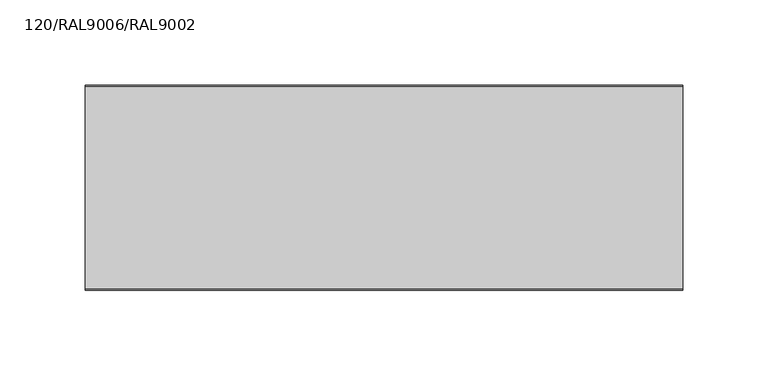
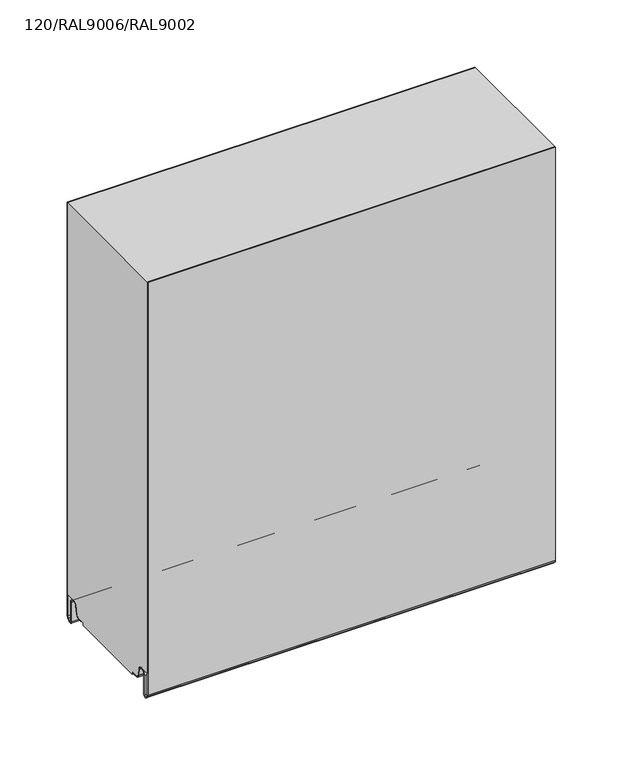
"""IFC4 building model written with IfcOpenShell, lengths in millimetres: plate geometry, TR_C_H_FTV_Panel_cut_GROOVE : 120/RAL9006/RAL9002."""

from ifc_helpers import new_model, si_unit, point, frame, frame_2d, origin, place, context, project, spatial, polyline, circle_curve, trimmed, segment, composite_curve, outline, extrude, source, transform, mapped, element, save


def plate_120_ral9006_ral9002_0dee8bbd(model_context):
    return source(origin(), model_context, "Body", "SweptSolid", [
        extrude(outline(composite_curve([segment(polyline([(-0.8, 14.4000012), (-9.45, 14.4000012)]), True, "CONTINUOUS"), segment(trimmed(circle_curve(frame_2d((-9.45, 10.1500012)), 4.25), [point((-9.45, 14.4000012))], [point((-13.635433, 10.8880059))], True, "CARTESIAN"), True, "CONTINUOUS"), segment(polyline([(-13.635433, 10.8880059), (-14.7022582, 4.837739)]), True, "CONTINUOUS"), segment(trimmed(circle_curve(frame_2d((-17.6074411, 5.3500012)), 2.95), [point((-14.7022582, 4.837739))], [point((-17.6074411, 2.4000012))], False, "CARTESIAN"), True, "CONTINUOUS"), segment(polyline([(-17.6074411, 2.4000012), (-23.7, 2.4000012), (-23.7, 1.2e-06), (-96.3, 1.2e-06), (-96.3, 2.4000012), (-102.3925589, 2.4000012)]), True, "CONTINUOUS"), segment(trimmed(circle_curve(frame_2d((-102.3925589, 5.3500012)), 2.95), [point((-102.3925589, 2.4000012))], [point((-105.2977418, 4.837739))], False, "CARTESIAN"), True, "CONTINUOUS"), segment(polyline([(-105.2977418, 4.837739), (-106.364567, 10.8880059)]), True, "CONTINUOUS"), segment(trimmed(circle_curve(frame_2d((-110.55, 10.1500012)), 4.25), [point((-106.364567, 10.8880059))], [point((-110.55, 14.4000012))], True, "CARTESIAN"), True, "CONTINUOUS"), segment(polyline([(-110.55, 14.4000012), (-119.2, 14.4000012), (-119.2, 370.0), (-0.8, 370.0), (-0.8, 14.4000012)]), True, "CONTINUOUS")], self_intersect=False)), frame((-110.0, 0.0, 0.0), z_axis=(1.0, 0.0, 0.0), x_axis=(0.0, 1.0, 0.0)), (0.0, 0.0, 1.0), 350.0),
        extrude(outline(composite_curve([segment(polyline([(-21.0, 2.4000012), (-17.6074411, 2.4000012)]), True, "CONTINUOUS"), segment(trimmed(circle_curve(frame_2d((-17.6074411, 5.3500012)), 2.95), [point((-17.6074411, 2.4000012))], [point((-14.7022582, 4.837739))], True, "CARTESIAN"), True, "CONTINUOUS"), segment(polyline([(-14.7022582, 4.837739), (-13.635433, 10.8880059)]), True, "CONTINUOUS"), segment(trimmed(circle_curve(frame_2d((-9.45, 10.1500012)), 4.25), [point((-13.635433, 10.8880059))], [point((-5.2, 10.1500012))], False, "CARTESIAN"), True, "CONTINUOUS"), segment(polyline([(-5.2, 10.1500012), (-5.2, -7.4499988)]), True, "CONTINUOUS"), segment(trimmed(circle_curve(frame_2d((-4.05, -7.4499988)), 1.15), [point((-5.2, -7.4499988))], [point((-3.2368272, -8.2631716))], True, "CARTESIAN"), True, "CONTINUOUS"), segment(polyline([(-3.2368272, -8.2631716), (-1.3711418, -6.3974862)]), True, "CONTINUOUS"), segment(trimmed(circle_curve(frame_2d((-2.75, -5.018628)), 1.95), [point((-1.3711418, -6.3974862))], [point((-0.8, -5.018628))], True, "CARTESIAN"), True, "CONTINUOUS"), segment(polyline([(-0.8, -5.018628), (-0.8, 370.0), (0.0, 370.0), (0.0, -5.018628)]), True, "CONTINUOUS"), segment(trimmed(circle_curve(frame_2d((-2.75, -5.018628)), 2.75), [point((0.0, -5.018628))], [point((-0.8054564, -6.9631716))], False, "CARTESIAN"), True, "CONTINUOUS"), segment(polyline([(-0.8054564, -6.9631716), (-2.6711418, -8.8288571)]), True, "CONTINUOUS"), segment(trimmed(circle_curve(frame_2d((-4.05, -7.4499988)), 1.95), [point((-2.6711418, -8.8288571))], [point((-6.0, -7.4499988))], False, "CARTESIAN"), True, "CONTINUOUS"), segment(polyline([(-6.0, -7.4499988), (-6.0, 10.1500012)]), True, "CONTINUOUS"), segment(trimmed(circle_curve(frame_2d((-9.45, 10.1500012)), 3.45), [point((-6.0, 10.1500012))], [point((-12.8475867, 10.7490874))], True, "CARTESIAN"), True, "CONTINUOUS"), segment(polyline([(-12.8475867, 10.7490874), (-13.914412, 4.6988205)]), True, "CONTINUOUS"), segment(trimmed(circle_curve(frame_2d((-17.6074411, 5.3500012)), 3.75), [point((-13.914412, 4.6988205))], [point((-17.6074411, 1.6000012))], False, "CARTESIAN"), True, "CONTINUOUS"), segment(polyline([(-17.6074411, 1.6000012), (-21.0, 1.6000012), (-21.0, 2.4000012)]), True, "CONTINUOUS")], self_intersect=False)), frame((-110.0, 0.0, 0.0), z_axis=(1.0, 0.0, 0.0), x_axis=(0.0, 1.0, 0.0)), (0.0, 0.0, 1.0), 350.0),
        extrude(outline(composite_curve([segment(trimmed(circle_curve(frame_2d((-117.25, -5.018628)), 1.95), [point((-119.2, -5.018628))], [point((-118.6288582, -6.3974862))], True, "CARTESIAN"), True, "CONTINUOUS"), segment(polyline([(-118.6288582, -6.3974862), (-116.7631728, -8.2631716)]), True, "CONTINUOUS"), segment(trimmed(circle_curve(frame_2d((-115.95, -7.4499988)), 1.15), [point((-116.7631728, -8.2631716))], [point((-114.8, -7.4499988))], True, "CARTESIAN"), True, "CONTINUOUS"), segment(polyline([(-114.8, -7.4499988), (-114.8, 10.1500012)]), True, "CONTINUOUS"), segment(trimmed(circle_curve(frame_2d((-110.55, 10.1500012)), 4.25), [point((-114.8, 10.1500012))], [point((-106.364567, 10.8880059))], False, "CARTESIAN"), True, "CONTINUOUS"), segment(polyline([(-106.364567, 10.8880059), (-105.2977418, 4.837739)]), True, "CONTINUOUS"), segment(trimmed(circle_curve(frame_2d((-102.3925589, 5.3500012)), 2.95), [point((-105.2977418, 4.837739))], [point((-102.3925589, 2.4000012))], True, "CARTESIAN"), True, "CONTINUOUS"), segment(polyline([(-102.3925589, 2.4000012), (-99.0, 2.4000012), (-99.0, 1.6000012), (-102.3925589, 1.6000012)]), True, "CONTINUOUS"), segment(trimmed(circle_curve(frame_2d((-102.3925589, 5.3500012)), 3.75), [point((-102.3925589, 1.6000012))], [point((-106.085588, 4.6988205))], False, "CARTESIAN"), True, "CONTINUOUS"), segment(polyline([(-106.085588, 4.6988205), (-107.1524133, 10.7490874)]), True, "CONTINUOUS"), segment(trimmed(circle_curve(frame_2d((-110.55, 10.1500012)), 3.45), [point((-107.1524133, 10.7490874))], [point((-114.0, 10.1500012))], True, "CARTESIAN"), True, "CONTINUOUS"), segment(polyline([(-114.0, 10.1500012), (-114.0, -7.4499988)]), True, "CONTINUOUS"), segment(trimmed(circle_curve(frame_2d((-115.95, -7.4499988)), 1.95), [point((-114.0, -7.4499988))], [point((-117.3288582, -8.8288571))], False, "CARTESIAN"), True, "CONTINUOUS"), segment(polyline([(-117.3288582, -8.8288571), (-119.1945436, -6.9631716)]), True, "CONTINUOUS"), segment(trimmed(circle_curve(frame_2d((-117.25, -5.018628)), 2.75), [point((-119.1945436, -6.9631716))], [point((-120.0, -5.018628))], False, "CARTESIAN"), True, "CONTINUOUS"), segment(polyline([(-120.0, -5.018628), (-120.0, 370.0), (-119.2, 370.0), (-119.2, -5.018628)]), True, "CONTINUOUS")], self_intersect=False)), frame((-110.0, 0.0, 0.0), z_axis=(1.0, 0.0, 0.0), x_axis=(0.0, 1.0, 0.0)), (0.0, 0.0, 1.0), 350.0),
    ])


if __name__ == "__main__":
    model = new_model("IFC4")
    model_context = context("Model", 3, world=origin())
    ifc_project = project(units=[si_unit("LENGTHUNIT", "METRE", prefix="MILLI")], contexts=[model_context])
    site = spatial("IfcSite", under=ifc_project)
    building = spatial("IfcBuilding", under=site)
    placement = place(None, origin())
    plate_120_ral9006_ral9002_shape = plate_120_ral9006_ral9002_0dee8bbd(model_context)
    element("IfcPlate", 1, ObjectType="TR_C_H_FTV_Panel_cut_GROOVE : 120/RAL9006/RAL9002", at=placement, inside=building, context=model_context, shape_type="MappedRepresentation", body=[
        mapped(plate_120_ral9006_ral9002_shape, transform((0.0, 0.0, 0.0), x_axis=(1.0, 0.0, 0.0), y_axis=(0.0, 1.0, 0.0), z_axis=(0.0, 0.0, 1.0))),
    ])
    save(model, "model.ifc")
